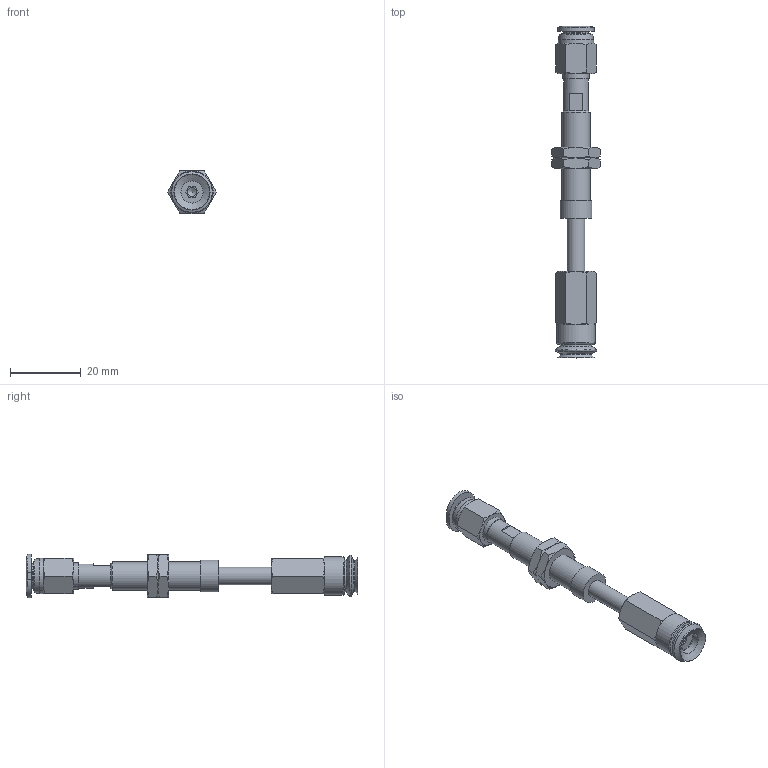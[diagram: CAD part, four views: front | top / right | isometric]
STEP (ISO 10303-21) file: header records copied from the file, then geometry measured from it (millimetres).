
FILE_DESCRIPTION(('STEP AP203'),'1');
FILE_NAME('-O.stp','2025-08-27T07:27:57',(' '),(' '),'Spatial InterOp 3D',' ',' ');
FILE_SCHEMA(('CONFIG_CONTROL_DESIGN'));
Length unit declared in the file: millimetre
Products named in the file (8): BNABPJTS-10-15-※-O; ADAPTER; NAPCTS-10-15-MBODY; Adapter-10-NAPJ; NUT-NAPJ-10-15-s; NAPJTS-10-15-FBODY; BPJG-10-※; PC-C_06-M5
Assembly tree (8 placements, depth 2):
  BNABPJTS-10-15-※-O
    ADAPTER
    NAPCTS-10-15-MBODY
    Adapter-10-NAPJ
    NUT-NAPJ-10-15-s  x2
    NAPJTS-10-15-FBODY
    BPJG-10-※
    PC-C_06-M5
Bounding box: 13.86 x 93.98 x 12.4 mm (x, y, z)
Volume: 4510.8 mm3; surface area: 6047 mm2
Topology: 7 solids, 10 shells, 173 faces, 357 edges, 215 vertices
Faces by surface type: cone 67, plane 65, cylinder 25, torus 9, bspline 4, revolution 3
Full cylindrical faces by diameter (mm): 2.5 x1, 4 x2, 4.134 x2, 4.6 x1, 5 x4, 6.266 x1, 7 x2, 7.188 x2, 7.4 x1, 7.8 x1, 8 x2, 8.2 x1, 9 x1, 10 x1, 11 x1
Entity records: 4620 total; most frequent: CARTESIAN_POINT 1423, DIRECTION 587, ORIENTED_EDGE 490, AXIS2_PLACEMENT_3D 264, EDGE_CURVE 247, EDGE_LOOP 222, VERTEX_POINT 176, FACE_OUTER_BOUND 121
